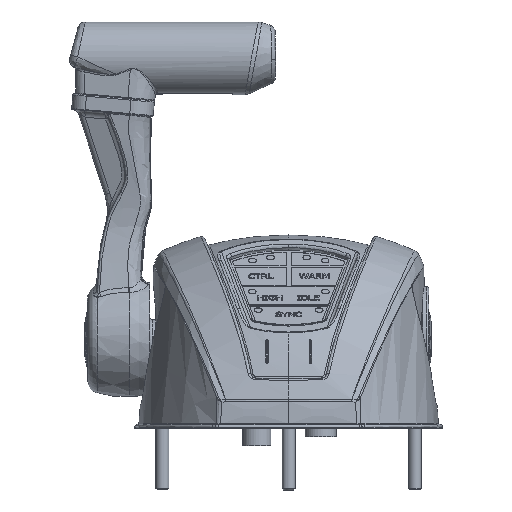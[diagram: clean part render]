
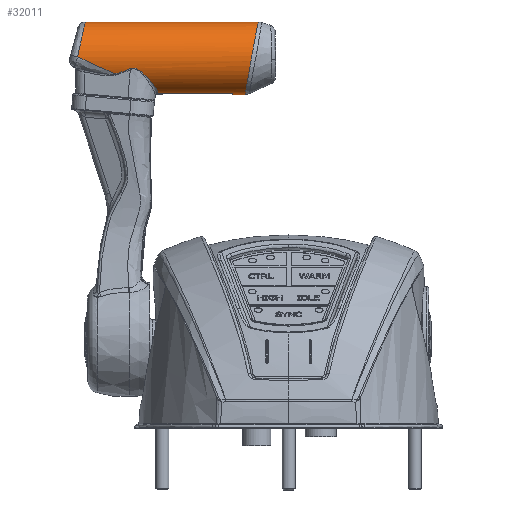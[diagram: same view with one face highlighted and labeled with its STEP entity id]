
A CAD part, front view. The second image highlights one B-rep face of the part: STEP entity #32011.
In plain terms, the highlighted cylindrical face has radius 14 mm (diameter 28 mm), a partial arc.
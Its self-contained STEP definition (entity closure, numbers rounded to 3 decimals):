
#2134=ELLIPSE('',#34700,14.009,14.);
#2137=ELLIPSE('',#34734,33.811,14.);
#2138=ELLIPSE('',#34736,14.318,14.);
#2139=ELLIPSE('',#34737,33.811,14.);
#2140=ELLIPSE('',#34738,113.915,14.);
#2141=ELLIPSE('',#34739,14.088,14.);
#3329=B_SPLINE_CURVE_WITH_KNOTS('',3,(#89646,#89647,#89648,#89649,#89650,
#89651,#89652,#89653,#89654,#89655,#89656,#89657,#89658,#89659,#89660,#89661),
 .UNSPECIFIED.,.F.,.F.,(4,1,1,1,1,1,1,1,1,1,1,1,1,4),(0.,0.062,
0.124,0.249,0.497,0.995,
1.492,1.99,2.487,2.985,3.234,
3.358,3.42,3.482),.UNSPECIFIED.);
#3330=B_SPLINE_CURVE_WITH_KNOTS('',3,(#89671,#89672,#89673,#89674,#89675,
#89676,#89677,#89678,#89679,#89680,#89681),.UNSPECIFIED.,.F.,.F.,(4,1,1,
1,1,1,1,1,4),(-2.042,-1.458,-0.875,-0.656,
-0.583,-0.437,-0.292,-0.146,
0.),.UNSPECIFIED.);
#4858=CYLINDRICAL_SURFACE('',#34735,14.);
#6490=FACE_OUTER_BOUND('',#8628,.T.);
#8628=EDGE_LOOP('',(#28235,#28236,#28237,#28238,#28239,#28240,#28241,#28242,
#28243,#28244,#28245));
#10600=LINE('',#89642,#12478);
#10601=LINE('',#89644,#12479);
#10602=LINE('',#89663,#12480);
#12478=VECTOR('',#41279,10.);
#12479=VECTOR('',#41280,10.);
#12480=VECTOR('',#41281,10.);
#15273=VERTEX_POINT('',#89122);
#15274=VERTEX_POINT('',#89124);
#15332=VERTEX_POINT('',#89619);
#15333=VERTEX_POINT('',#89638);
#15334=VERTEX_POINT('',#89643);
#15335=VERTEX_POINT('',#89645);
#15336=VERTEX_POINT('',#89662);
#15337=VERTEX_POINT('',#89664);
#15338=VERTEX_POINT('',#89666);
#15339=VERTEX_POINT('',#89668);
#15340=VERTEX_POINT('',#89670);
#19643=EDGE_CURVE('',#15274,#15273,#2134,.T.);
#19728=EDGE_CURVE('',#15333,#15332,#2137,.T.);
#19729=EDGE_CURVE('',#15333,#15274,#10600,.T.);
#19730=EDGE_CURVE('',#15334,#15273,#10601,.T.);
#19731=EDGE_CURVE('',#15335,#15334,#3329,.T.);
#19732=EDGE_CURVE('',#15335,#15336,#10602,.T.);
#19733=EDGE_CURVE('',#15337,#15336,#2138,.T.);
#19734=EDGE_CURVE('',#15338,#15337,#2139,.T.);
#19735=EDGE_CURVE('',#15339,#15338,#2140,.T.);
#19736=EDGE_CURVE('',#15340,#15339,#3330,.T.);
#19737=EDGE_CURVE('',#15332,#15340,#2141,.T.);
#28235=ORIENTED_EDGE('',*,*,#19729,.T.);
#28236=ORIENTED_EDGE('',*,*,#19643,.T.);
#28237=ORIENTED_EDGE('',*,*,#19730,.F.);
#28238=ORIENTED_EDGE('',*,*,#19731,.F.);
#28239=ORIENTED_EDGE('',*,*,#19732,.T.);
#28240=ORIENTED_EDGE('',*,*,#19733,.F.);
#28241=ORIENTED_EDGE('',*,*,#19734,.F.);
#28242=ORIENTED_EDGE('',*,*,#19735,.F.);
#28243=ORIENTED_EDGE('',*,*,#19736,.F.);
#28244=ORIENTED_EDGE('',*,*,#19737,.F.);
#28245=ORIENTED_EDGE('',*,*,#19728,.F.);
#32011=ADVANCED_FACE('',(#6490),#4858,.T.);
#34700=AXIS2_PLACEMENT_3D('',#89125,#41148,#41149);
#34734=AXIS2_PLACEMENT_3D('',#89640,#41275,#41276);
#34735=AXIS2_PLACEMENT_3D('',#89641,#41277,#41278);
#34736=AXIS2_PLACEMENT_3D('',#89665,#41282,#41283);
#34737=AXIS2_PLACEMENT_3D('',#89667,#41284,#41285);
#34738=AXIS2_PLACEMENT_3D('',#89669,#41286,#41287);
#34739=AXIS2_PLACEMENT_3D('',#89682,#41288,#41289);
#41148=DIRECTION('center_axis',(0.,0.035,
-0.999));
#41149=DIRECTION('ref_axis',(0.,-0.999,-0.035));
#41275=DIRECTION('center_axis',(0.,-0.91,
0.414));
#41276=DIRECTION('ref_axis',(0.,-0.414,-0.91));
#41277=DIRECTION('center_axis',(0.,0.,1.));
#41278=DIRECTION('ref_axis',(0.,-1.,0.));
#41279=DIRECTION('',(0.,0.,-1.));
#41280=DIRECTION('',(0.,0.,1.));
#41281=DIRECTION('',(0.,0.,1.));
#41282=DIRECTION('center_axis',(0.,0.21,
0.978));
#41283=DIRECTION('ref_axis',(0.,0.978,-0.21));
#41284=DIRECTION('center_axis',(0.,-0.91,
0.414));
#41285=DIRECTION('ref_axis',(0.,-0.414,-0.91));
#41286=DIRECTION('center_axis',(-0.992,0.006,
-0.123));
#41287=DIRECTION('ref_axis',(0.123,-0.001,-0.992));
#41288=DIRECTION('center_axis',(0.,0.112,
0.994));
#41289=DIRECTION('ref_axis',(0.,-0.994,0.112));
#89122=CARTESIAN_POINT('',(2.5,-14.,10.731));
#89124=CARTESIAN_POINT('',(6.05,-13.542,10.747));
#89125=CARTESIAN_POINT('Origin',(2.5,0.,11.22));
#89619=CARTESIAN_POINT('',(6.058,-13.54,39.377));
#89638=CARTESIAN_POINT('',(6.05,-13.542,39.372));
#89640=CARTESIAN_POINT('Origin',(2.5,0.,69.143));
#89641=CARTESIAN_POINT('Origin',(2.5,0.,0.));
#89642=CARTESIAN_POINT('',(6.05,-13.542,0.));
#89643=CARTESIAN_POINT('',(2.5,-14.,5.592));
#89644=CARTESIAN_POINT('',(2.5,-14.,0.));
#89645=CARTESIAN_POINT('',(2.5,14.,0.491));
#89646=CARTESIAN_POINT('Ctrl Pts',(2.5,14.,0.491));
#89647=CARTESIAN_POINT('Ctrl Pts',(2.763,14.,0.505));
#89648=CARTESIAN_POINT('Ctrl Pts',(3.29,13.985,0.539));
#89649=CARTESIAN_POINT('Ctrl Pts',(4.337,13.897,0.606));
#89650=CARTESIAN_POINT('Ctrl Pts',(6.165,13.583,0.732));
#89651=CARTESIAN_POINT('Ctrl Pts',(9.672,12.351,1.039));
#89652=CARTESIAN_POINT('Ctrl Pts',(13.862,8.969,1.708));
#89653=CARTESIAN_POINT('Ctrl Pts',(16.605,3.212,2.774));
#89654=CARTESIAN_POINT('Ctrl Pts',(16.622,-3.158,3.906));
#89655=CARTESIAN_POINT('Ctrl Pts',(13.885,-8.943,4.896));
#89656=CARTESIAN_POINT('Ctrl Pts',(9.686,-12.345,5.445));
#89657=CARTESIAN_POINT('Ctrl Pts',(6.171,-13.582,5.607));
#89658=CARTESIAN_POINT('Ctrl Pts',(4.343,-13.896,5.623));
#89659=CARTESIAN_POINT('Ctrl Pts',(3.291,-13.985,5.612));
#89660=CARTESIAN_POINT('Ctrl Pts',(2.764,-14.,5.598));
#89661=CARTESIAN_POINT('Ctrl Pts',(2.5,-14.,5.592));
#89662=CARTESIAN_POINT('',(2.5,14.,67.396));
#89663=CARTESIAN_POINT('',(2.5,14.,0.));
#89664=CARTESIAN_POINT('',(16.49,0.52,70.286));
#89665=CARTESIAN_POINT('Origin',(2.5,0.,70.397));
#89666=CARTESIAN_POINT('',(15.151,-5.997,55.961));
#89667=CARTESIAN_POINT('Origin',(2.5,0.,69.143));
#89668=CARTESIAN_POINT('',(15.884,-4.107,50.131));
#89669=CARTESIAN_POINT('Origin',(2.5,0.,158.409));
#89670=CARTESIAN_POINT('',(6.264,-13.485,39.371));
#89671=CARTESIAN_POINT('Ctrl Pts',(6.264,-13.485,39.371));
#89672=CARTESIAN_POINT('Ctrl Pts',(8.013,-12.996,39.316));
#89673=CARTESIAN_POINT('Ctrl Pts',(11.287,-11.305,40.188));
#89674=CARTESIAN_POINT('Ctrl Pts',(13.834,-8.412,42.5));
#89675=CARTESIAN_POINT('Ctrl Pts',(14.904,-6.521,44.274));
#89676=CARTESIAN_POINT('Ctrl Pts',(15.341,-5.592,45.243));
#89677=CARTESIAN_POINT('Ctrl Pts',(15.643,-4.852,46.105));
#89678=CARTESIAN_POINT('Ctrl Pts',(15.902,-4.066,47.278));
#89679=CARTESIAN_POINT('Ctrl Pts',(16.011,-3.667,48.717));
#89680=CARTESIAN_POINT('Ctrl Pts',(15.94,-3.925,49.69));
#89681=CARTESIAN_POINT('Ctrl Pts',(15.884,-4.107,50.131));
#89682=CARTESIAN_POINT('Origin',(2.5,0.,37.852));
